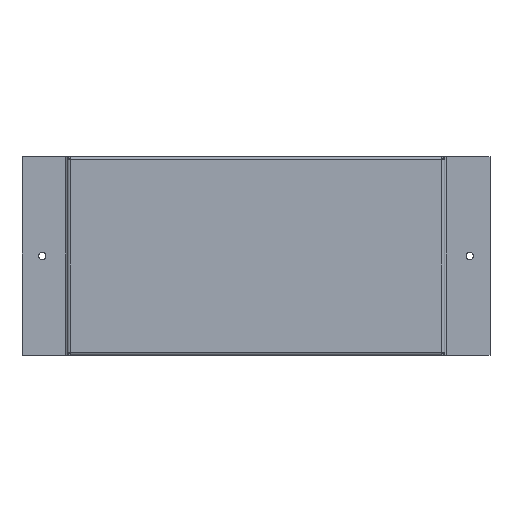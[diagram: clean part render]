
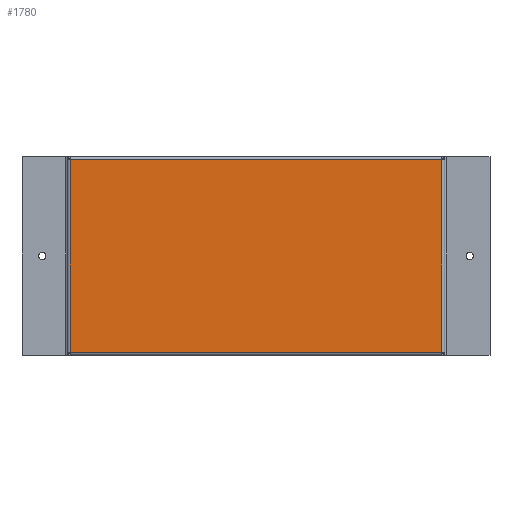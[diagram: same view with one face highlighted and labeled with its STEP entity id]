
A CAD part, top view. The second image highlights one B-rep face of the part: STEP entity #1780.
In plain terms, the highlighted planar face has unit normal (0, 0, 1).
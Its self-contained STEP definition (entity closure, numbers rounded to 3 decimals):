
#99 = VERTEX_POINT ( 'NONE', #155 ) ;
#120 = ORIENTED_EDGE ( 'NONE', *, *, #717, .T. ) ;
#132 = ORIENTED_EDGE ( 'NONE', *, *, #713, .T. ) ;
#155 = CARTESIAN_POINT ( 'NONE',  ( 139.1, 72.1, 0. ) ) ;
#224 = CARTESIAN_POINT ( 'NONE',  ( -139.1, -72.1, 0. ) ) ;
#228 = VERTEX_POINT ( 'NONE', #334 ) ;
#267 = VERTEX_POINT ( 'NONE', #224 ) ;
#292 = ORIENTED_EDGE ( 'NONE', *, *, #719, .T. ) ;
#334 = CARTESIAN_POINT ( 'NONE',  ( 139.1, -72.1, 0. ) ) ;
#391 = ORIENTED_EDGE ( 'NONE', *, *, #718, .F. ) ;
#404 = VERTEX_POINT ( 'NONE', #432 ) ;
#432 = CARTESIAN_POINT ( 'NONE',  ( -139.1, 72.1, 0. ) ) ;
#552 = EDGE_LOOP ( 'NONE', ( #292, #391, #120, #132 ) ) ;
#713 = EDGE_CURVE ( 'NONE', #228, #99, #1442, .T. ) ;
#717 = EDGE_CURVE ( 'NONE', #267, #228, #1454, .T. ) ;
#718 = EDGE_CURVE ( 'NONE', #267, #404, #1457, .T. ) ;
#719 = EDGE_CURVE ( 'NONE', #99, #404, #1460, .T. ) ;
#863 = AXIS2_PLACEMENT_3D ( 'NONE', #1319, #1320, #1318 ) ;
#864 = FACE_OUTER_BOUND ( 'NONE', #552, .T. ) ;
#869 = VECTOR ( 'NONE', #1456, 1000. ) ;
#925 = VECTOR ( 'NONE', #1462, 1000. ) ;
#940 = VECTOR ( 'NONE', #1459, 1000. ) ;
#1081 = VECTOR ( 'NONE', #1444, 1000. ) ;
#1318 = DIRECTION ( 'NONE',  ( -1., 0., 0. ) ) ;
#1319 = CARTESIAN_POINT ( 'NONE',  ( -141.5, -74.5, 0. ) ) ;
#1320 = DIRECTION ( 'NONE',  ( 0., 0., -1. ) ) ;
#1373 = PLANE ( 'NONE',  #863 ) ;
#1442 = LINE ( 'NONE', #1443, #1081 ) ;
#1443 = CARTESIAN_POINT ( 'NONE',  ( 139.1, -74.5, 0. ) ) ;
#1444 = DIRECTION ( 'NONE',  ( 0., 1., 0. ) ) ;
#1454 = LINE ( 'NONE', #1455, #869 ) ;
#1455 = CARTESIAN_POINT ( 'NONE',  ( -139.1, -72.1, 0. ) ) ;
#1456 = DIRECTION ( 'NONE',  ( 1., 0., 0. ) ) ;
#1457 = LINE ( 'NONE', #1458, #940 ) ;
#1458 = CARTESIAN_POINT ( 'NONE',  ( -139.1, -74.5, 0. ) ) ;
#1459 = DIRECTION ( 'NONE',  ( 0., 1., 0. ) ) ;
#1460 = LINE ( 'NONE', #1461, #925 ) ;
#1461 = CARTESIAN_POINT ( 'NONE',  ( 139.1, 72.1, 0. ) ) ;
#1462 = DIRECTION ( 'NONE',  ( -1., 0., 0. ) ) ;
#1780 = ADVANCED_FACE ( 'NONE', ( #864 ), #1373, .F. ) ;
